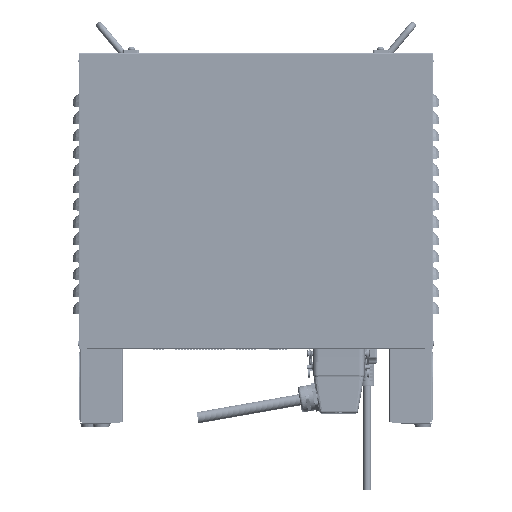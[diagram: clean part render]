
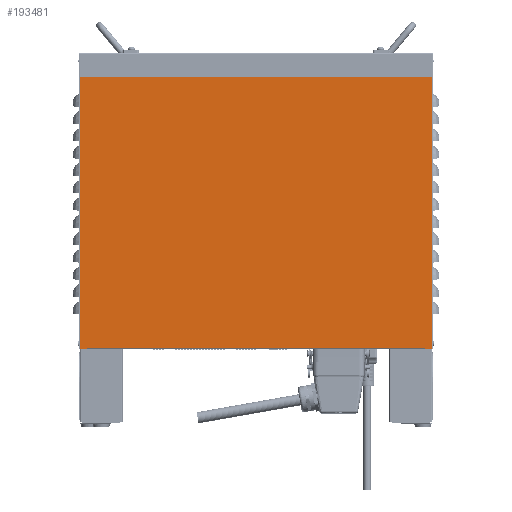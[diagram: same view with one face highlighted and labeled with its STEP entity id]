
A CAD part, front view. The second image highlights one B-rep face of the part: STEP entity #193481.
In plain terms, the highlighted planar face has unit normal (0, -1, 0).
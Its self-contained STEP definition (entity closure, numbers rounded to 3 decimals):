
#35350=DIRECTION('',(0.,0.,1.));
#35351=VECTOR('',#35350,315.);
#35352=CARTESIAN_POINT('',(1.,-210.,-314.));
#35353=LINE('',#35352,#35351);
#35358=DIRECTION('',(0.,0.,1.));
#35359=VECTOR('',#35358,1.05);
#35360=CARTESIAN_POINT('',(10.1,-210.,-314.));
#35361=LINE('',#35360,#35359);
#35362=DIRECTION('',(1.,0.,0.));
#35363=VECTOR('',#35362,9.1);
#35364=CARTESIAN_POINT('',(1.,-210.,-314.));
#35365=LINE('',#35364,#35363);
#35366=DIRECTION('',(-1.,0.,0.));
#35367=VECTOR('',#35366,10.9);
#35368=CARTESIAN_POINT('',(11.9,-210.,1.));
#35369=LINE('',#35368,#35367);
#35370=DIRECTION('',(0.,0.,1.));
#35371=VECTOR('',#35370,1.);
#35372=CARTESIAN_POINT('',(11.9,-210.,0.));
#35373=LINE('',#35372,#35371);
#35378=DIRECTION('',(0.,0.,-1.));
#35379=VECTOR('',#35378,315.);
#35380=CARTESIAN_POINT('',(409.,-210.,1.));
#35381=LINE('',#35380,#35379);
#52209=DIRECTION('',(-1.,0.,0.));
#52210=VECTOR('',#52209,9.1);
#52211=CARTESIAN_POINT('',(409.,-210.,-314.));
#52212=LINE('',#52211,#52210);
#52300=CARTESIAN_POINT('',(399.9,-210.,-312.95));
#52329=DIRECTION('',(0.,0.,1.));
#52330=VECTOR('',#52329,1.05);
#52331=CARTESIAN_POINT('',(399.9,-210.,-314.));
#52332=LINE('',#52331,#52330);
#52337=DIRECTION('',(-1.,0.,0.));
#52338=VECTOR('',#52337,389.8);
#52339=CARTESIAN_POINT('',(399.9,-210.,-312.95));
#52340=LINE('',#52339,#52338);
#53486=CARTESIAN_POINT('',(10.1,-210.,-312.95));
#53557=DIRECTION('',(1.,0.,0.));
#53558=VECTOR('',#53557,10.9);
#53559=CARTESIAN_POINT('',(398.1,-210.,1.));
#53560=LINE('',#53559,#53558);
#53583=DIRECTION('',(0.,0.,1.));
#53584=VECTOR('',#53583,1.);
#53585=CARTESIAN_POINT('',(398.1,-210.,0.));
#53586=LINE('',#53585,#53584);
#53587=DIRECTION('',(1.,0.,0.));
#53588=VECTOR('',#53587,386.2);
#53589=CARTESIAN_POINT('',(11.9,-210.,0.));
#53590=LINE('',#53589,#53588);
#151873=VERTEX_POINT('',#53486);
#151874=CARTESIAN_POINT('',(10.1,-210.,-314.));
#151875=VERTEX_POINT('',#151874);
#151888=VERTEX_POINT('',#52300);
#151890=CARTESIAN_POINT('',(399.9,-210.,-314.));
#151891=VERTEX_POINT('',#151890);
#151898=CARTESIAN_POINT('',(409.,-210.,-314.));
#151899=VERTEX_POINT('',#151898);
#151924=CARTESIAN_POINT('',(398.1,-210.,0.));
#151925=VERTEX_POINT('',#151924);
#151926=CARTESIAN_POINT('',(398.1,-210.,1.));
#151927=VERTEX_POINT('',#151926);
#151928=CARTESIAN_POINT('',(409.,-210.,1.));
#151929=VERTEX_POINT('',#151928);
#151948=CARTESIAN_POINT('',(11.9,-210.,0.));
#151949=VERTEX_POINT('',#151948);
#151950=CARTESIAN_POINT('',(11.9,-210.,1.));
#151951=VERTEX_POINT('',#151950);
#151972=CARTESIAN_POINT('',(1.,-210.,-314.));
#151973=CARTESIAN_POINT('',(1.,-210.,1.));
#151974=VERTEX_POINT('',#151972);
#151975=VERTEX_POINT('',#151973);
#193453=CARTESIAN_POINT('',(409.,-210.,-156.5));
#193454=DIRECTION('',(0.,-1.,0.));
#193455=DIRECTION('',(0.,0.,-1.));
#193456=AXIS2_PLACEMENT_3D('',#193453,#193454,#193455);
#193457=PLANE('',#193456);
#193459=ORIENTED_EDGE('',*,*,#193458,.T.);
#193461=ORIENTED_EDGE('',*,*,#193460,.T.);
#193463=ORIENTED_EDGE('',*,*,#193462,.T.);
#193465=ORIENTED_EDGE('',*,*,#193464,.T.);
#193467=ORIENTED_EDGE('',*,*,#193466,.F.);
#193468=ORIENTED_EDGE('',*,*,#193201,.F.);
#193469=ORIENTED_EDGE('',*,*,#193445,.T.);
#193470=ORIENTED_EDGE('',*,*,#193435,.F.);
#193472=ORIENTED_EDGE('',*,*,#193471,.F.);
#193474=ORIENTED_EDGE('',*,*,#193473,.T.);
#193476=ORIENTED_EDGE('',*,*,#193475,.T.);
#193478=ORIENTED_EDGE('',*,*,#193477,.T.);
#193479=EDGE_LOOP('',(#193459,#193461,#193463,#193465,#193467,#193468,#193469,
#193470,#193472,#193474,#193476,#193478));
#193480=FACE_OUTER_BOUND('',#193479,.F.);
#193201=EDGE_CURVE('',#151974,#151875,#35365,.T.);
#193435=EDGE_CURVE('',#151951,#151975,#35369,.T.);
#193445=EDGE_CURVE('',#151974,#151975,#35353,.T.);
#193458=EDGE_CURVE('',#151929,#151899,#35381,.T.);
#193460=EDGE_CURVE('',#151899,#151891,#52212,.T.);
#193462=EDGE_CURVE('',#151891,#151888,#52332,.T.);
#193464=EDGE_CURVE('',#151888,#151873,#52340,.T.);
#193466=EDGE_CURVE('',#151875,#151873,#35361,.T.);
#193471=EDGE_CURVE('',#151949,#151951,#35373,.T.);
#193473=EDGE_CURVE('',#151949,#151925,#53590,.T.);
#193475=EDGE_CURVE('',#151925,#151927,#53586,.T.);
#193477=EDGE_CURVE('',#151927,#151929,#53560,.T.);
#193481=ADVANCED_FACE('',(#193480),#193457,.T.);
